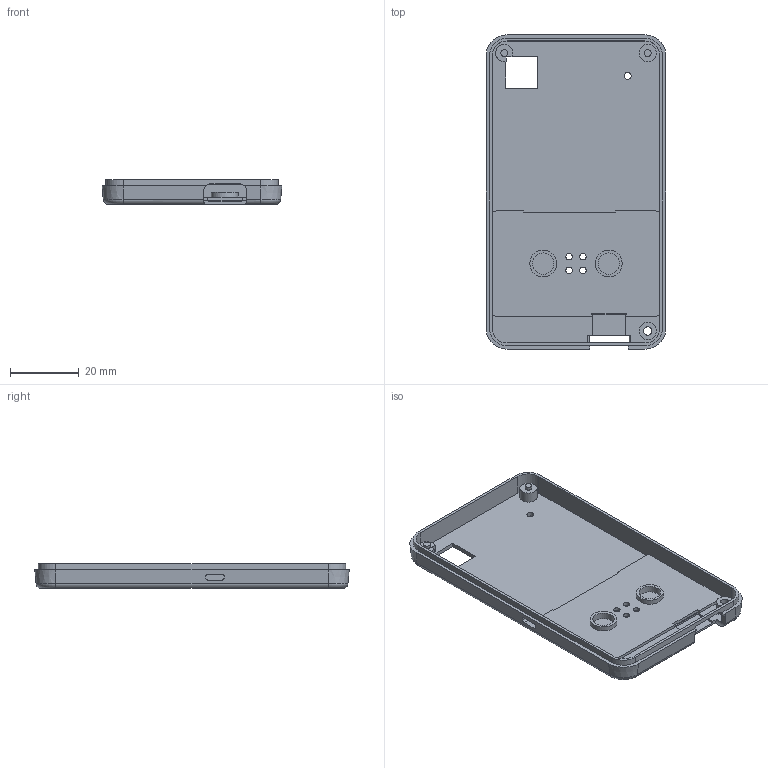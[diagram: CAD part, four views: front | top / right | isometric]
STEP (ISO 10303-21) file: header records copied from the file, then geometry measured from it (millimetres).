
FILE_DESCRIPTION(('Open CASCADE Model'),'2;1');
FILE_NAME('Open CASCADE Shape Model','2026-10-28T10:02:06',('Author'),( 'Open CASCADE'),'Open CASCADE STEP processor 7.7','Open CASCADE 7.7' ,'Unknown');
FILE_SCHEMA(('AUTOMOTIVE_DESIGN { 1 0 10303 214 1 1 1 1 }'));
Length unit declared in the file: millimetre
Products named in the file (1): SOLID
Bounding box: 52.2 x 91.2 x 7.2 mm (x, y, z)
Volume: 7275.5 mm3; surface area: 13042.4 mm2
Topology: 1 solids, 1 shells, 121 faces, 320 edges, 210 vertices
Faces by surface type: plane 67, cylinder 45, cone 5, torus 4
Full cylindrical faces by diameter (mm): 1.9 x4, 2 x3, 2.4 x1, 4.1 x1, 5 x2, 6.2 x2, 7.8 x2
Entity records: 8027 total; most frequent: CARTESIAN_POINT 1841, DIRECTION 1079, ORIENTED_EDGE 640, PCURVE 640, DEFINITIONAL_REPRESENTATION 640, LINE 557, VECTOR 557, EDGE_CURVE 320
